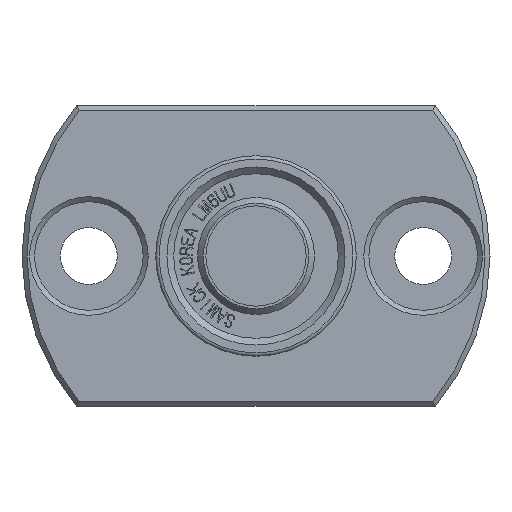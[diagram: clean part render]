
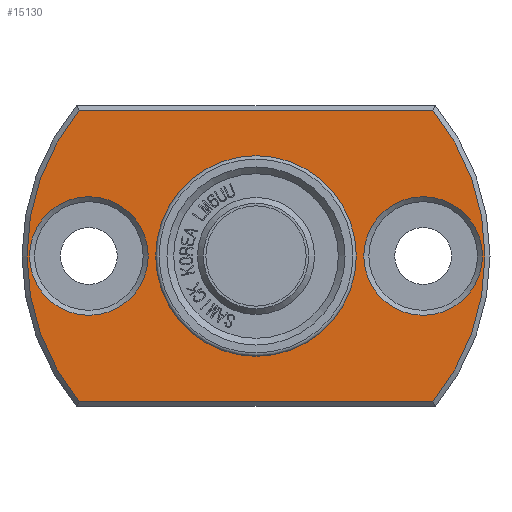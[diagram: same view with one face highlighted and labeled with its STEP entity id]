
A CAD part, front view. The second image highlights one B-rep face of the part: STEP entity #15130.
In plain terms, the highlighted planar face has unit normal (0, -1, 0).
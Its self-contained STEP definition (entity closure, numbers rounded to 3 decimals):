
#2503=FACE_BOUND('',#3599,.T.);
#2504=FACE_BOUND('',#3600,.T.);
#2505=FACE_BOUND('',#3601,.T.);
#2559=PLANE('',#15969);
#2782=FACE_OUTER_BOUND('',#3598,.T.);
#3598=EDGE_LOOP('',(#10534,#10535,#10536,#10537));
#3599=EDGE_LOOP('',(#10538));
#3600=EDGE_LOOP('',(#10539,#10540));
#3601=EDGE_LOOP('',(#10541));
#4470=LINE('',#18005,#5554);
#4471=LINE('',#18009,#5555);
#5554=VECTOR('',#16292,10.);
#5555=VECTOR('',#16295,10.);
#6637=CIRCLE('',#15966,3.55);
#6640=CIRCLE('',#15970,13.7);
#6641=CIRCLE('',#15971,13.7);
#6642=CIRCLE('',#15972,3.55);
#6643=CIRCLE('',#15973,6.);
#6644=CIRCLE('',#15974,6.);
#6703=VERTEX_POINT('',#17995);
#6706=VERTEX_POINT('',#18003);
#6707=VERTEX_POINT('',#18004);
#6708=VERTEX_POINT('',#18006);
#6709=VERTEX_POINT('',#18008);
#6710=VERTEX_POINT('',#18011);
#6711=VERTEX_POINT('',#18013);
#6712=VERTEX_POINT('',#18014);
#8235=EDGE_CURVE('',#6703,#6703,#6637,.T.);
#8239=EDGE_CURVE('',#6706,#6707,#4470,.T.);
#8240=EDGE_CURVE('',#6706,#6708,#6640,.T.);
#8241=EDGE_CURVE('',#6709,#6708,#4471,.T.);
#8242=EDGE_CURVE('',#6709,#6707,#6641,.T.);
#8243=EDGE_CURVE('',#6710,#6710,#6642,.T.);
#8244=EDGE_CURVE('',#6711,#6712,#6643,.T.);
#8245=EDGE_CURVE('',#6712,#6711,#6644,.T.);
#10534=ORIENTED_EDGE('',*,*,#8239,.F.);
#10535=ORIENTED_EDGE('',*,*,#8240,.T.);
#10536=ORIENTED_EDGE('',*,*,#8241,.F.);
#10537=ORIENTED_EDGE('',*,*,#8242,.T.);
#10538=ORIENTED_EDGE('',*,*,#8243,.F.);
#10539=ORIENTED_EDGE('',*,*,#8244,.F.);
#10540=ORIENTED_EDGE('',*,*,#8245,.F.);
#10541=ORIENTED_EDGE('',*,*,#8235,.F.);
#15130=ADVANCED_FACE('',(#2782,#2503,#2504,#2505),#2559,.T.);
#15966=AXIS2_PLACEMENT_3D('',#17996,#16283,#16284);
#15969=AXIS2_PLACEMENT_3D('',#18002,#16290,#16291);
#15970=AXIS2_PLACEMENT_3D('',#18007,#16293,#16294);
#15971=AXIS2_PLACEMENT_3D('',#18010,#16296,#16297);
#15972=AXIS2_PLACEMENT_3D('',#18012,#16298,#16299);
#15973=AXIS2_PLACEMENT_3D('',#18015,#16300,#16301);
#15974=AXIS2_PLACEMENT_3D('',#18016,#16302,#16303);
#16283=DIRECTION('center_axis',(0.,-1.,0.));
#16284=DIRECTION('ref_axis',(-1.,0.,0.));
#16290=DIRECTION('center_axis',(0.,-1.,0.));
#16291=DIRECTION('ref_axis',(0.,0.,-1.));
#16292=DIRECTION('',(-1.,0.,0.));
#16293=DIRECTION('center_axis',(0.,-1.,0.));
#16294=DIRECTION('ref_axis',(1.,0.,0.));
#16295=DIRECTION('',(1.,0.,0.));
#16296=DIRECTION('center_axis',(0.,-1.,0.));
#16297=DIRECTION('ref_axis',(1.,0.,0.));
#16298=DIRECTION('center_axis',(0.,-1.,0.));
#16299=DIRECTION('ref_axis',(-1.,0.,0.));
#16300=DIRECTION('center_axis',(0.,-1.,0.));
#16301=DIRECTION('ref_axis',(1.,0.,0.));
#16302=DIRECTION('center_axis',(0.,-1.,0.));
#16303=DIRECTION('ref_axis',(1.,0.,0.));
#17995=CARTESIAN_POINT('',(-6.45,-17.5,0.));
#17996=CARTESIAN_POINT('Origin',(-10.,-17.5,0.));
#18002=CARTESIAN_POINT('Origin',(9.85,-17.5,0.));
#18003=CARTESIAN_POINT('',(10.583,-17.5,-8.7));
#18004=CARTESIAN_POINT('',(-10.583,-17.5,-8.7));
#18005=CARTESIAN_POINT('',(13.675,-17.5,-8.7));
#18006=CARTESIAN_POINT('',(10.583,-17.5,8.7));
#18007=CARTESIAN_POINT('Origin',(0.,-17.5,0.));
#18008=CARTESIAN_POINT('',(-10.583,-17.5,8.7));
#18009=CARTESIAN_POINT('',(-3.825,-17.5,8.7));
#18010=CARTESIAN_POINT('Origin',(0.,-17.5,0.));
#18011=CARTESIAN_POINT('',(13.55,-17.5,0.));
#18012=CARTESIAN_POINT('Origin',(10.,-17.5,0.));
#18013=CARTESIAN_POINT('',(6.,-17.5,0.));
#18014=CARTESIAN_POINT('',(-6.,-17.5,0.));
#18015=CARTESIAN_POINT('Origin',(0.,-17.5,0.));
#18016=CARTESIAN_POINT('Origin',(0.,-17.5,0.));
